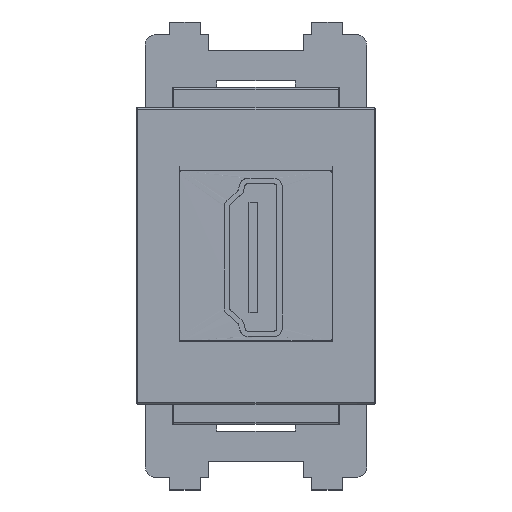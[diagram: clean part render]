
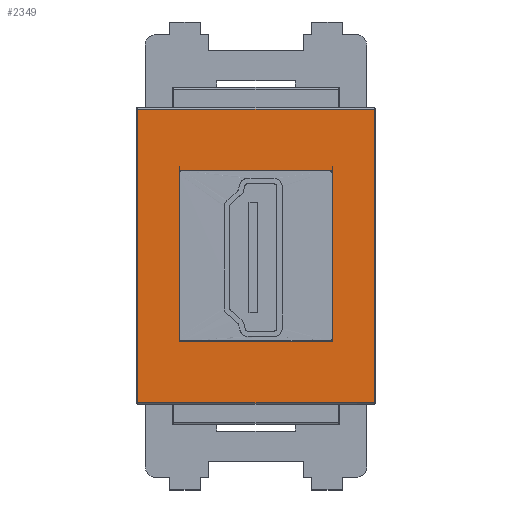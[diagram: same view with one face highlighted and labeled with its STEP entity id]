
A CAD part, top view. The second image highlights one B-rep face of the part: STEP entity #2349.
In plain terms, the highlighted free-form (B-spline) face has degree [1, 1] with [2, 2] control points.
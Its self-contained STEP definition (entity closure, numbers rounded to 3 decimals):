
#1376 = VERTEX_POINT('',#1377);
#1377 = CARTESIAN_POINT('',(22.504,-13.88,0.));
#1494 = VERTEX_POINT('',#1495);
#1495 = CARTESIAN_POINT('',(22.504,13.89,0.));
#1563 = EDGE_CURVE('',#1494,#1376,#1564,.T.);
#1564 = B_SPLINE_CURVE_WITH_KNOTS('',5,(#1565,#1566,#1567,#1568,#1569,
    #1570),.UNSPECIFIED.,.F.,.F.,(6,6),(0.,27.77),
  .PIECEWISE_BEZIER_KNOTS.);
#1565 = CARTESIAN_POINT('',(22.504,13.89,0.));
#1566 = CARTESIAN_POINT('',(22.504,8.336,0.));
#1567 = CARTESIAN_POINT('',(22.504,2.782,0.));
#1568 = CARTESIAN_POINT('',(22.504,-2.772,0.));
#1569 = CARTESIAN_POINT('',(22.504,-8.326,0.));
#1570 = CARTESIAN_POINT('',(22.504,-13.88,0.));
#1638 = VERTEX_POINT('',#1639);
#1639 = CARTESIAN_POINT('',(0.154,-13.88,0.));
#1756 = EDGE_CURVE('',#1376,#1638,#1757,.T.);
#1757 = B_SPLINE_CURVE_WITH_KNOTS('',5,(#1758,#1759,#1760,#1761,#1762,
    #1763),.UNSPECIFIED.,.F.,.F.,(6,6),(0.,22.35),
  .PIECEWISE_BEZIER_KNOTS.);
#1758 = CARTESIAN_POINT('',(22.504,-13.88,0.));
#1759 = CARTESIAN_POINT('',(18.034,-13.88,0.));
#1760 = CARTESIAN_POINT('',(13.564,-13.88,0.));
#1761 = CARTESIAN_POINT('',(9.094,-13.88,0.));
#1762 = CARTESIAN_POINT('',(4.624,-13.88,0.));
#1763 = CARTESIAN_POINT('',(0.154,-13.88,0.));
#1790 = VERTEX_POINT('',#1791);
#1791 = CARTESIAN_POINT('',(0.154,13.89,0.));
#1859 = EDGE_CURVE('',#1790,#1494,#1860,.T.);
#1860 = B_SPLINE_CURVE_WITH_KNOTS('',5,(#1861,#1862,#1863,#1864,#1865,
    #1866),.UNSPECIFIED.,.F.,.F.,(6,6),(0.,22.35),
  .PIECEWISE_BEZIER_KNOTS.);
#1861 = CARTESIAN_POINT('',(0.154,13.89,0.));
#1862 = CARTESIAN_POINT('',(4.624,13.89,0.));
#1863 = CARTESIAN_POINT('',(9.094,13.89,0.));
#1864 = CARTESIAN_POINT('',(13.564,13.89,0.));
#1865 = CARTESIAN_POINT('',(18.034,13.89,0.));
#1866 = CARTESIAN_POINT('',(22.504,13.89,0.));
#1924 = EDGE_CURVE('',#1638,#1790,#1925,.T.);
#1925 = B_SPLINE_CURVE_WITH_KNOTS('',5,(#1926,#1927,#1928,#1929,#1930,
    #1931),.UNSPECIFIED.,.F.,.F.,(6,6),(0.,27.77),
  .PIECEWISE_BEZIER_KNOTS.);
#1926 = CARTESIAN_POINT('',(0.154,-13.88,0.));
#1927 = CARTESIAN_POINT('',(0.154,-8.326,0.));
#1928 = CARTESIAN_POINT('',(0.154,-2.772,0.));
#1929 = CARTESIAN_POINT('',(0.154,2.782,0.));
#1930 = CARTESIAN_POINT('',(0.154,8.336,0.));
#1931 = CARTESIAN_POINT('',(0.154,13.89,0.));
#2349 = ADVANCED_FACE('',(#2350,#2356),#2402,.F.);
#2350 = FACE_BOUND('',#2351,.F.);
#2351 = EDGE_LOOP('',(#2352,#2353,#2354,#2355));
#2352 = ORIENTED_EDGE('',*,*,#1756,.T.);
#2353 = ORIENTED_EDGE('',*,*,#1924,.T.);
#2354 = ORIENTED_EDGE('',*,*,#1859,.T.);
#2355 = ORIENTED_EDGE('',*,*,#1563,.T.);
#2356 = FACE_BOUND('',#2357,.F.);
#2357 = EDGE_LOOP('',(#2358,#2371,#2382,#2393));
#2358 = ORIENTED_EDGE('',*,*,#2359,.T.);
#2359 = EDGE_CURVE('',#2360,#2362,#2364,.T.);
#2360 = VERTEX_POINT('',#2361);
#2361 = CARTESIAN_POINT('',(18.594,8.116,0.));
#2362 = VERTEX_POINT('',#2363);
#2363 = CARTESIAN_POINT('',(4.054,8.116,0.));
#2364 = B_SPLINE_CURVE_WITH_KNOTS('',5,(#2365,#2366,#2367,#2368,#2369,
    #2370),.UNSPECIFIED.,.F.,.F.,(6,6),(0.,14.54),
  .PIECEWISE_BEZIER_KNOTS.);
#2365 = CARTESIAN_POINT('',(18.594,8.116,0.));
#2366 = CARTESIAN_POINT('',(15.686,8.116,0.));
#2367 = CARTESIAN_POINT('',(12.778,8.116,0.));
#2368 = CARTESIAN_POINT('',(9.87,8.116,0.));
#2369 = CARTESIAN_POINT('',(6.962,8.116,0.));
#2370 = CARTESIAN_POINT('',(4.054,8.116,0.));
#2371 = ORIENTED_EDGE('',*,*,#2372,.T.);
#2372 = EDGE_CURVE('',#2362,#2373,#2375,.T.);
#2373 = VERTEX_POINT('',#2374);
#2374 = CARTESIAN_POINT('',(4.054,-8.104,0.));
#2375 = B_SPLINE_CURVE_WITH_KNOTS('',5,(#2376,#2377,#2378,#2379,#2380,
    #2381),.UNSPECIFIED.,.F.,.F.,(6,6),(0.,16.22),
  .PIECEWISE_BEZIER_KNOTS.);
#2376 = CARTESIAN_POINT('',(4.054,8.116,0.));
#2377 = CARTESIAN_POINT('',(4.054,4.872,0.));
#2378 = CARTESIAN_POINT('',(4.054,1.628,0.));
#2379 = CARTESIAN_POINT('',(4.054,-1.616,0.));
#2380 = CARTESIAN_POINT('',(4.054,-4.86,0.));
#2381 = CARTESIAN_POINT('',(4.054,-8.104,0.));
#2382 = ORIENTED_EDGE('',*,*,#2383,.T.);
#2383 = EDGE_CURVE('',#2373,#2384,#2386,.T.);
#2384 = VERTEX_POINT('',#2385);
#2385 = CARTESIAN_POINT('',(18.594,-8.104,0.));
#2386 = B_SPLINE_CURVE_WITH_KNOTS('',5,(#2387,#2388,#2389,#2390,#2391,
    #2392),.UNSPECIFIED.,.F.,.F.,(6,6),(0.,14.54),
  .PIECEWISE_BEZIER_KNOTS.);
#2387 = CARTESIAN_POINT('',(4.054,-8.104,0.));
#2388 = CARTESIAN_POINT('',(6.962,-8.104,0.));
#2389 = CARTESIAN_POINT('',(9.87,-8.104,0.));
#2390 = CARTESIAN_POINT('',(12.778,-8.104,0.));
#2391 = CARTESIAN_POINT('',(15.686,-8.104,0.));
#2392 = CARTESIAN_POINT('',(18.594,-8.104,0.));
#2393 = ORIENTED_EDGE('',*,*,#2394,.T.);
#2394 = EDGE_CURVE('',#2384,#2360,#2395,.T.);
#2395 = B_SPLINE_CURVE_WITH_KNOTS('',5,(#2396,#2397,#2398,#2399,#2400,
    #2401),.UNSPECIFIED.,.F.,.F.,(6,6),(0.,16.22),
  .PIECEWISE_BEZIER_KNOTS.);
#2396 = CARTESIAN_POINT('',(18.594,-8.104,0.));
#2397 = CARTESIAN_POINT('',(18.594,-4.86,0.));
#2398 = CARTESIAN_POINT('',(18.594,-1.616,0.));
#2399 = CARTESIAN_POINT('',(18.594,1.628,0.));
#2400 = CARTESIAN_POINT('',(18.594,4.872,0.));
#2401 = CARTESIAN_POINT('',(18.594,8.116,0.));
#2402 = B_SPLINE_SURFACE_WITH_KNOTS('',1,1,(
    (#2403,#2404)
    ,(#2405,#2406
    )),.UNSPECIFIED.,.F.,.F.,.F.,(2,2),(2,2),(0.,1.),(0.,1.242)
  ,.PIECEWISE_BEZIER_KNOTS.);
#2403 = CARTESIAN_POINT('',(22.504,-13.88,0.));
#2404 = CARTESIAN_POINT('',(22.504,13.89,0.));
#2405 = CARTESIAN_POINT('',(0.154,-13.88,0.));
#2406 = CARTESIAN_POINT('',(0.154,13.89,0.));
